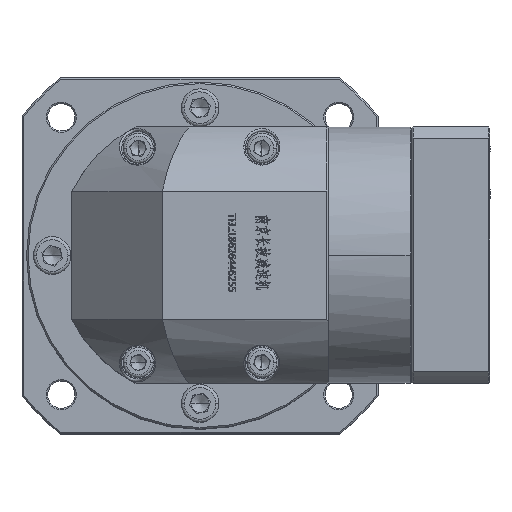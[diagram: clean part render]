
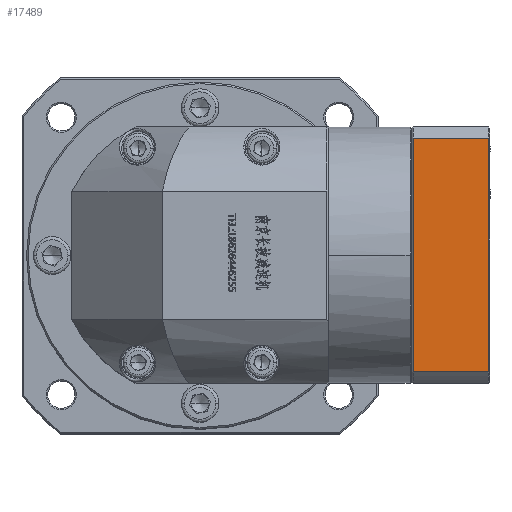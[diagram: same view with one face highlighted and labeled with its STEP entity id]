
A CAD part, top view. The second image highlights one B-rep face of the part: STEP entity #17489.
In plain terms, the highlighted planar face has unit normal (0, 0, 1).
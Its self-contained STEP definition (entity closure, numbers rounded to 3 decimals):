
#1200 = EDGE_LOOP ( 'NONE', ( #44640, #101512, #117319, #99050 ) ) ;
#7693 = EDGE_CURVE ( 'NONE', #72659, #40116, #124362, .T. ) ;
#15950 = LINE ( 'NONE', #57549, #128737 ) ;
#17489 = ADVANCED_FACE ( 'NONE', ( #164506 ), #19366, .F. ) ;
#19366 = PLANE ( 'NONE',  #73630 ) ;
#28950 = EDGE_CURVE ( 'NONE', #74459, #72659, #15950, .T. ) ;
#30102 = CARTESIAN_POINT ( 'NONE',  ( -73.477, 90.925, 6.465 ) ) ;
#31050 = CARTESIAN_POINT ( 'NONE',  ( 91.284, 168.385, 6.465 ) ) ;
#31413 = CARTESIAN_POINT ( 'NONE',  ( 116.284, 90.925, 6.465 ) ) ;
#40116 = VERTEX_POINT ( 'NONE', #31413 ) ;
#41183 = VECTOR ( 'NONE', #74412, 1000. ) ;
#44640 = ORIENTED_EDGE ( 'NONE', *, *, #58127, .T. ) ;
#48460 = DIRECTION ( 'NONE',  ( 0., 1., 0. ) ) ;
#52010 = VECTOR ( 'NONE', #165942, 1000. ) ;
#57549 = CARTESIAN_POINT ( 'NONE',  ( 116.784, 168.385, 6.465 ) ) ;
#58127 = EDGE_CURVE ( 'NONE', #74459, #74131, #136915, .T. ) ;
#63267 = DIRECTION ( 'NONE',  ( 0., 0., -1. ) ) ;
#70658 = CARTESIAN_POINT ( 'NONE',  ( 116.284, 87.155, 6.465 ) ) ;
#72659 = VERTEX_POINT ( 'NONE', #95669 ) ;
#73630 = AXIS2_PLACEMENT_3D ( 'NONE', #91727, #63267, #48460 ) ;
#74131 = VERTEX_POINT ( 'NONE', #136705 ) ;
#74412 = DIRECTION ( 'NONE',  ( 0., -1., 0. ) ) ;
#74459 = VERTEX_POINT ( 'NONE', #31050 ) ;
#76518 = VECTOR ( 'NONE', #96103, 1000. ) ;
#87455 = CARTESIAN_POINT ( 'NONE',  ( 91.284, 87.155, 6.465 ) ) ;
#91727 = CARTESIAN_POINT ( 'NONE',  ( 116.784, 87.155, 6.465 ) ) ;
#95669 = CARTESIAN_POINT ( 'NONE',  ( 116.284, 168.385, 6.465 ) ) ;
#96103 = DIRECTION ( 'NONE',  ( -1., 0., 0. ) ) ;
#99050 = ORIENTED_EDGE ( 'NONE', *, *, #28950, .F. ) ;
#101512 = ORIENTED_EDGE ( 'NONE', *, *, #164501, .F. ) ;
#112781 = LINE ( 'NONE', #30102, #76518 ) ;
#117319 = ORIENTED_EDGE ( 'NONE', *, *, #7693, .F. ) ;
#124362 = LINE ( 'NONE', #70658, #52010 ) ;
#127172 = DIRECTION ( 'NONE',  ( 1., 0., 0. ) ) ;
#128737 = VECTOR ( 'NONE', #127172, 1000. ) ;
#136705 = CARTESIAN_POINT ( 'NONE',  ( 91.284, 90.925, 6.465 ) ) ;
#136915 = LINE ( 'NONE', #87455, #41183 ) ;
#164501 = EDGE_CURVE ( 'NONE', #40116, #74131, #112781, .T. ) ;
#164506 = FACE_OUTER_BOUND ( 'NONE', #1200, .T. ) ;
#165942 = DIRECTION ( 'NONE',  ( 0., -1., 0. ) ) ;
